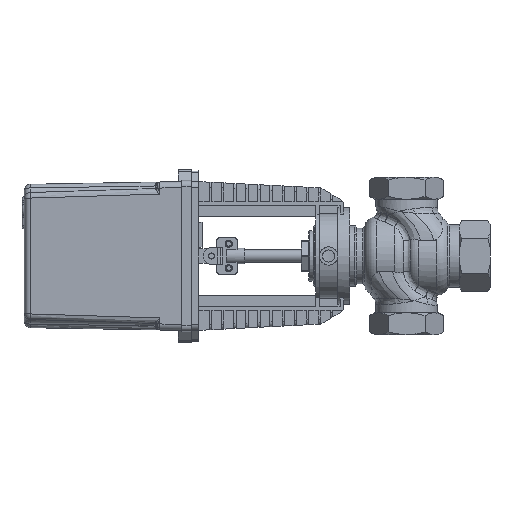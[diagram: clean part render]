
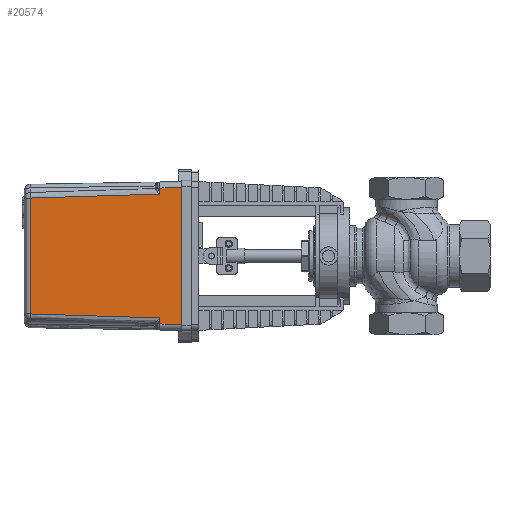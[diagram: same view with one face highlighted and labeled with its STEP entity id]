
A CAD part, left-side view. The second image highlights one B-rep face of the part: STEP entity #20574.
In plain terms, the highlighted planar face has unit normal (-1, 0.018, 0).
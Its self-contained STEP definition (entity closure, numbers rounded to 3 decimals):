
#837=B_SPLINE_CURVE_WITH_KNOTS('',3,(#37481,#37482,#37483,#37484),
 .UNSPECIFIED.,.F.,.F.,(4,4),(11.498,11.695),
 .UNSPECIFIED.);
#838=B_SPLINE_CURVE_WITH_KNOTS('',3,(#37485,#37486,#37487,#37488),
 .UNSPECIFIED.,.F.,.F.,(4,4),(-11.498,-0.983),
 .UNSPECIFIED.);
#841=B_SPLINE_CURVE_WITH_KNOTS('',3,(#37531,#37532,#37533,#37534),
 .UNSPECIFIED.,.F.,.F.,(4,4),(-13.025,-2.51),
 .UNSPECIFIED.);
#842=B_SPLINE_CURVE_WITH_KNOTS('',3,(#37535,#37536,#37537,#37538),
 .UNSPECIFIED.,.F.,.F.,(4,4),(2.314,2.51),
 .UNSPECIFIED.);
#1291=PLANE('',#22118);
#2390=FACE_OUTER_BOUND('',#3532,.T.);
#3532=EDGE_LOOP('',(#16714,#16715,#16716,#16717,#16718,#16719,#16720,#16721,
#16722,#16723));
#5019=LINE('',#35997,#6734);
#5026=LINE('',#36922,#6741);
#5094=LINE('',#37200,#6809);
#5147=LINE('',#37505,#6862);
#5148=LINE('',#37712,#6863);
#5149=LINE('',#37713,#6864);
#6734=VECTOR('',#25557,10.);
#6741=VECTOR('',#25664,10.);
#6809=VECTOR('',#25874,10.);
#6862=VECTOR('',#25989,10.);
#6863=VECTOR('',#26040,10.);
#6864=VECTOR('',#26041,10.);
#9276=VERTEX_POINT('',#35782);
#9288=VERTEX_POINT('',#35995);
#9334=VERTEX_POINT('',#36835);
#9337=VERTEX_POINT('',#36918);
#9432=VERTEX_POINT('',#37199);
#9509=VERTEX_POINT('',#37457);
#9510=VERTEX_POINT('',#37480);
#9513=VERTEX_POINT('',#37501);
#9514=VERTEX_POINT('',#37530);
#9518=VERTEX_POINT('',#37711);
#11784=EDGE_CURVE('',#9288,#9276,#5019,.T.);
#11866=EDGE_CURVE('',#9334,#9337,#5026,.T.);
#11984=EDGE_CURVE('',#9337,#9432,#5094,.T.);
#12077=EDGE_CURVE('',#9510,#9276,#837,.T.);
#12078=EDGE_CURVE('',#9510,#9509,#838,.T.);
#12086=EDGE_CURVE('',#9509,#9513,#5147,.T.);
#12088=EDGE_CURVE('',#9513,#9514,#841,.T.);
#12089=EDGE_CURVE('',#9334,#9514,#842,.T.);
#12109=EDGE_CURVE('',#9518,#9288,#5148,.T.);
#12110=EDGE_CURVE('',#9432,#9518,#5149,.T.);
#16714=ORIENTED_EDGE('',*,*,#11784,.F.);
#16715=ORIENTED_EDGE('',*,*,#12109,.F.);
#16716=ORIENTED_EDGE('',*,*,#12110,.F.);
#16717=ORIENTED_EDGE('',*,*,#11984,.F.);
#16718=ORIENTED_EDGE('',*,*,#11866,.F.);
#16719=ORIENTED_EDGE('',*,*,#12089,.T.);
#16720=ORIENTED_EDGE('',*,*,#12088,.F.);
#16721=ORIENTED_EDGE('',*,*,#12086,.F.);
#16722=ORIENTED_EDGE('',*,*,#12078,.F.);
#16723=ORIENTED_EDGE('',*,*,#12077,.T.);
#20574=ADVANCED_FACE('',(#2390),#1291,.T.);
#22118=AXIS2_PLACEMENT_3D('',#37710,#26038,#26039);
#25557=DIRECTION('',(0.,0.,1.));
#25664=DIRECTION('',(0.,0.,1.));
#25874=DIRECTION('',(-0.017,-1.,0.017));
#25989=DIRECTION('',(0.,0.,1.));
#26038=DIRECTION('center_axis',(-1.,0.017,0.));
#26039=DIRECTION('ref_axis',(0.,0.,
1.));
#26040=DIRECTION('',(0.017,1.,0.017));
#26041=DIRECTION('',(0.,0.,-1.));
#35782=CARTESIAN_POINT('',(-61.185,204.035,-51.199));
#35995=CARTESIAN_POINT('',(-61.185,204.035,-56.186));
#35997=CARTESIAN_POINT('',(-61.185,204.035,1.135));
#36835=CARTESIAN_POINT('',(-61.185,204.035,51.199));
#36918=CARTESIAN_POINT('',(-61.185,204.035,56.186));
#36922=CARTESIAN_POINT('',(-61.185,204.035,60.365));
#37199=CARTESIAN_POINT('',(-61.5,186.,56.501));
#37200=CARTESIAN_POINT('',(-61.483,186.986,56.484));
#37457=CARTESIAN_POINT('',(-59.317,311.087,-47.924));
#37480=CARTESIAN_POINT('',(-61.151,206.,-51.138));
#37481=CARTESIAN_POINT('Ctrl Pts',(-61.151,206.,-51.138));
#37482=CARTESIAN_POINT('Ctrl Pts',(-61.162,205.345,-51.158));
#37483=CARTESIAN_POINT('Ctrl Pts',(-61.174,204.69,-51.178));
#37484=CARTESIAN_POINT('Ctrl Pts',(-61.185,204.035,-51.199));
#37485=CARTESIAN_POINT('Ctrl Pts',(-61.151,206.,-51.138));
#37486=CARTESIAN_POINT('Ctrl Pts',(-60.539,241.029,-50.062));
#37487=CARTESIAN_POINT('Ctrl Pts',(-59.928,276.058,-48.992));
#37488=CARTESIAN_POINT('Ctrl Pts',(-59.317,311.087,-47.924));
#37501=CARTESIAN_POINT('',(-59.317,311.087,47.924));
#37505=CARTESIAN_POINT('',(-59.317,311.087,30.75));
#37530=CARTESIAN_POINT('',(-61.151,206.,51.138));
#37531=CARTESIAN_POINT('Ctrl Pts',(-59.317,311.087,47.924));
#37532=CARTESIAN_POINT('Ctrl Pts',(-59.928,276.058,48.992));
#37533=CARTESIAN_POINT('Ctrl Pts',(-60.539,241.029,50.062));
#37534=CARTESIAN_POINT('Ctrl Pts',(-61.151,206.,51.138));
#37535=CARTESIAN_POINT('Ctrl Pts',(-61.185,204.035,51.199));
#37536=CARTESIAN_POINT('Ctrl Pts',(-61.174,204.69,51.178));
#37537=CARTESIAN_POINT('Ctrl Pts',(-61.162,205.345,51.158));
#37538=CARTESIAN_POINT('Ctrl Pts',(-61.151,206.,51.138));
#37710=CARTESIAN_POINT('Origin',(-61.5,186.,61.5));
#37711=CARTESIAN_POINT('',(-61.5,186.,-56.501));
#37712=CARTESIAN_POINT('',(-61.483,186.986,-56.484));
#37713=CARTESIAN_POINT('',(-61.5,186.,30.75));
